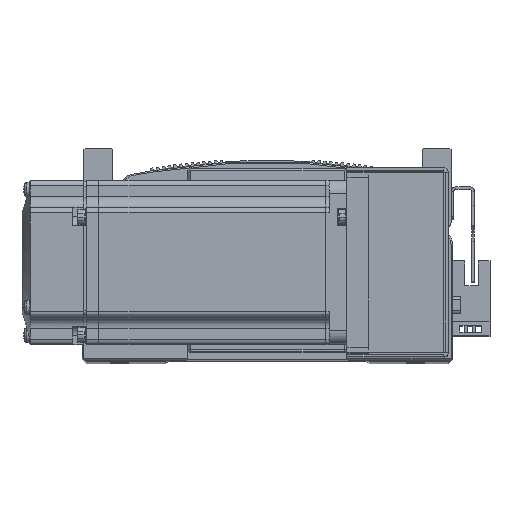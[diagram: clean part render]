
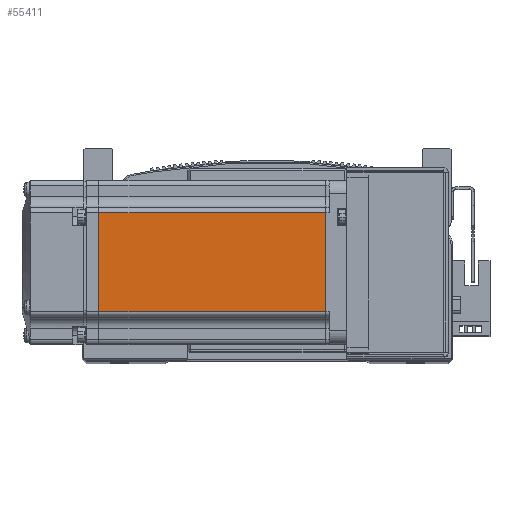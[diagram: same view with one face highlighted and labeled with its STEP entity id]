
A CAD part, top view. The second image highlights one B-rep face of the part: STEP entity #55411.
In plain terms, the highlighted planar face has unit normal (0, 0, 1) as drawn and (0, -1, 0) by its records, which use the part's own axes.
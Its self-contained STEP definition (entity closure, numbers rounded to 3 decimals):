
#9290 = LINE ( 'NONE', #11105, #9303 ) ;
#9303 = VECTOR ( 'NONE', #11122, 1000. ) ;
#9308 = LINE ( 'NONE', #11097, #9320 ) ;
#9320 = VECTOR ( 'NONE', #11126, 1000. ) ;
#9330 = VECTOR ( 'NONE', #11134, 1000. ) ;
#9332 = LINE ( 'NONE', #11198, #9348 ) ;
#9348 = VECTOR ( 'NONE', #11171, 1000. ) ;
#9373 = LINE ( 'NONE', #11095, #9330 ) ;
#11095 = CARTESIAN_POINT ( 'NONE',  ( -6.5, -30., -18. ) ) ;
#11097 = CARTESIAN_POINT ( 'NONE',  ( -7.75, -30., 0. ) ) ;
#11105 = CARTESIAN_POINT ( 'NONE',  ( -90.45, -30., 0. ) ) ;
#11122 = DIRECTION ( 'NONE',  ( 0., 0., -1. ) ) ;
#11126 = DIRECTION ( 'NONE',  ( 0., 0., -1. ) ) ;
#11134 = DIRECTION ( 'NONE',  ( -1., 0., 0. ) ) ;
#11171 = DIRECTION ( 'NONE',  ( -1., 0., 0. ) ) ;
#11198 = CARTESIAN_POINT ( 'NONE',  ( -6.5, -30., 18. ) ) ;
#14343 = EDGE_LOOP ( 'NONE', ( #64096, #64185, #64148, #64178 ) ) ;
#15044 = CARTESIAN_POINT ( 'NONE',  ( -6.5, -30., -25. ) ) ;
#15058 = PLANE ( 'NONE',  #75545 ) ;
#15061 = DIRECTION ( 'NONE',  ( 0., -1., 0. ) ) ;
#15073 = DIRECTION ( 'NONE',  ( 0., 0., -1. ) ) ;
#16190 = FACE_OUTER_BOUND ( 'NONE', #14343, .T. ) ;
#32281 = CARTESIAN_POINT ( 'NONE',  ( -7.75, -30., -18. ) ) ;
#32284 = CARTESIAN_POINT ( 'NONE',  ( -90.45, -30., -18. ) ) ;
#32299 = CARTESIAN_POINT ( 'NONE',  ( -90.45, -30., 18. ) ) ;
#32358 = VERTEX_POINT ( 'NONE', #32284 ) ;
#32383 = CARTESIAN_POINT ( 'NONE',  ( -7.75, -30., 18. ) ) ;
#32406 = VERTEX_POINT ( 'NONE', #32299 ) ;
#32417 = VERTEX_POINT ( 'NONE', #32383 ) ;
#32430 = VERTEX_POINT ( 'NONE', #32281 ) ;
#37015 = EDGE_CURVE ( 'NONE', #32417, #32430, #9308, .T. ) ;
#37020 = EDGE_CURVE ( 'NONE', #32406, #32358, #9290, .T. ) ;
#37041 = EDGE_CURVE ( 'NONE', #32430, #32358, #9373, .T. ) ;
#37098 = EDGE_CURVE ( 'NONE', #32417, #32406, #9332, .T. ) ;
#55411 = ADVANCED_FACE ( 'NONE', ( #16190 ), #15058, .T. ) ;
#64096 = ORIENTED_EDGE ( 'NONE', *, *, #37015, .F. ) ;
#64148 = ORIENTED_EDGE ( 'NONE', *, *, #37020, .T. ) ;
#64178 = ORIENTED_EDGE ( 'NONE', *, *, #37041, .F. ) ;
#64185 = ORIENTED_EDGE ( 'NONE', *, *, #37098, .T. ) ;
#75545 = AXIS2_PLACEMENT_3D ( 'NONE', #15044, #15061, #15073 ) ;
